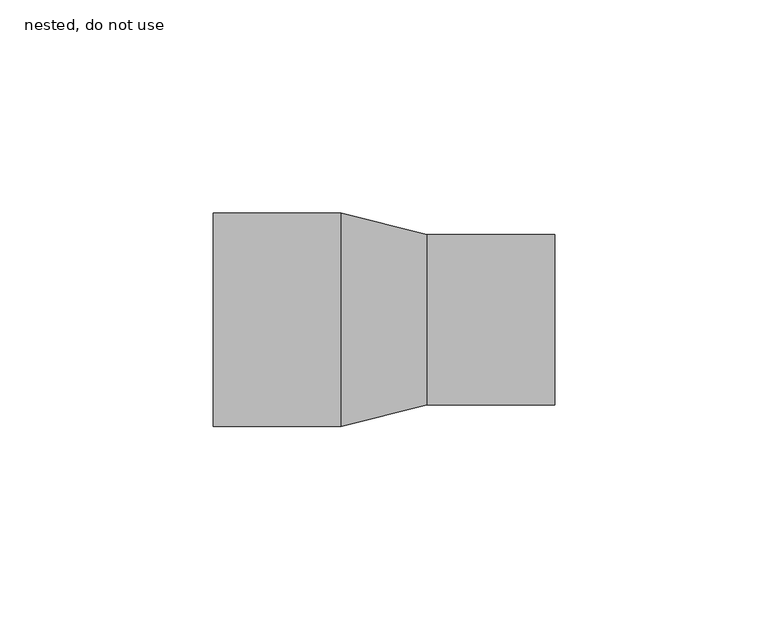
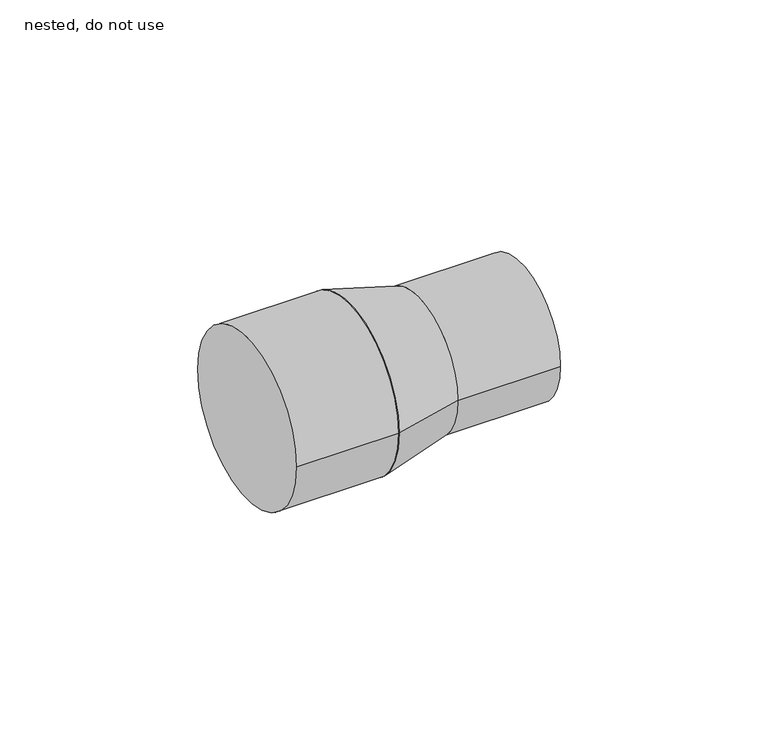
"""IFC4 building model written with IfcOpenShell, lengths in millimetres: pipe fitting geometry, ZZZ_do no use_PIF_HDPE reducer -SH_Akatherm : nested, do not use."""

from ifc_helpers import new_model, si_unit, point, frame, origin, origin_2d, place, context, project, spatial, polyline, circle_curve, trimmed, segment, composite_curve, outline, extrude, source, transform, mapped, element, save
from ifc_brep_helpers import plane_surface, revolved_surface, advanced_brep


def nested_do_not_use_1446917e(model_context):
    return source(origin(), model_context, "Body", "SolidModel", [
        advanced_brep(
        [(10.0, -20.0, 0.0), (10.0, 20.0, 0.0), (-10.0, -25.0, 0.0), (-10.0, 25.0, 0.0)],
        [
            (0, 1, circle_curve(frame((10.0, 0.0, 0.0), z_axis=(1.0, -3.5548497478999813e-12, 0.0), x_axis=(-3.5549383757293e-12, -1.0, 0.0)), 20.0)),
            (1, 0, circle_curve(frame((10.0, 0.0, 0.0), z_axis=(1.0, -3.5548497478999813e-12, 0.0), x_axis=(3.5549383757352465e-12, 1.0, 0.0)), 20.0)),
            (2, 3, circle_curve(frame((-10.0, 0.0, 0.0), z_axis=(-1.0, 3.5548497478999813e-12, 0.0), x_axis=(3.5549383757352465e-12, 1.0, 0.0)), 25.0)),
            (3, 2, circle_curve(frame((-10.0, 0.0, 0.0), z_axis=(-1.0, 3.5548497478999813e-12, 0.0), x_axis=(-3.5549383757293e-12, -1.0, 0.0)), 25.0)),
            (3, 1),
            (0, 2),
        ],
        [
            plane_surface(frame((10.0, 0.0, 0.0), z_axis=(1.0, 0.0, 0.0), x_axis=(0.0, 0.0, -1.0))),
            plane_surface(frame((-10.0, 0.0, 0.0), z_axis=(-1.0, 0.0, 0.0), x_axis=(0.0, 0.0, -1.0))),
            revolved_surface(polyline([(10.0, -20.0, 0.0), (-10.00000000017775, -25.000000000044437, 0.0)]), (90.0, 0.0, 0.0), (-1.0, 3.5548497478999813e-12, 0.0)),
            revolved_surface(polyline([(10.000000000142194, 19.99999999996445, 0.0), (-10.0, 25.0, 0.0)]), (90.0, 0.0, 0.0), (-1.0, 3.5548497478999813e-12, 0.0)),
        ],
        [
            (0, [[1, 2]]),
            (1, [[3, 4]]),
            (2, [[-4, 5, -1, 6]]),
            (3, [[-3, -6, -2, -5]]),
        ],
    ),
        extrude(outline(composite_curve([segment(trimmed(circle_curve(origin_2d(), 20.0), [point((-20.0, 0.0))], [point((20.0, 0.0))], False, "CARTESIAN"), True, "CONTINUOUS"), segment(trimmed(circle_curve(origin_2d(), 20.0), [point((20.0, 0.0))], [point((-20.0, 0.0))], False, "CARTESIAN"), True, "CONTINUOUS")], self_intersect=False)), frame((10.0, 0.0, 0.0), z_axis=(1.0, 0.0, 0.0), x_axis=(0.0, 1.0, 0.0)), (0.0, 0.0, 1.0), 30.0),
        extrude(outline(composite_curve([segment(trimmed(circle_curve(origin_2d(), 25.0), [point((-25.0, 0.0))], [point((25.0, 0.0))], False, "CARTESIAN"), True, "CONTINUOUS"), segment(trimmed(circle_curve(origin_2d(), 25.0), [point((25.0, 0.0))], [point((-25.0, 0.0))], False, "CARTESIAN"), True, "CONTINUOUS")], self_intersect=False)), frame((-40.0, 0.0, 0.0), z_axis=(1.0, 0.0, 0.0), x_axis=(0.0, 1.0, 0.0)), (0.0, 0.0, 1.0), 30.0),
    ])


if __name__ == "__main__":
    model = new_model("IFC4")
    model_context = context("Model", 3, world=origin())
    ifc_project = project(units=[si_unit("LENGTHUNIT", "METRE", prefix="MILLI")], contexts=[model_context])
    site = spatial("IfcSite", under=ifc_project)
    building = spatial("IfcBuilding", under=site)
    placement = place(None, origin())
    nested_do_not_use_shape = nested_do_not_use_1446917e(model_context)
    element("IfcPipeFitting", 1, ObjectType="ZZZ_do no use_PIF_HDPE reducer -SH_Akatherm : nested, do not use", at=placement, inside=building, context=model_context, shape_type="MappedRepresentation", body=[
        mapped(nested_do_not_use_shape, transform((0.0, 0.0, 0.0), x_axis=(1.0, 0.0, 0.0), y_axis=(0.0, 1.0, 0.0), z_axis=(0.0, 0.0, 1.0))),
    ])
    save(model, "model.ifc")
